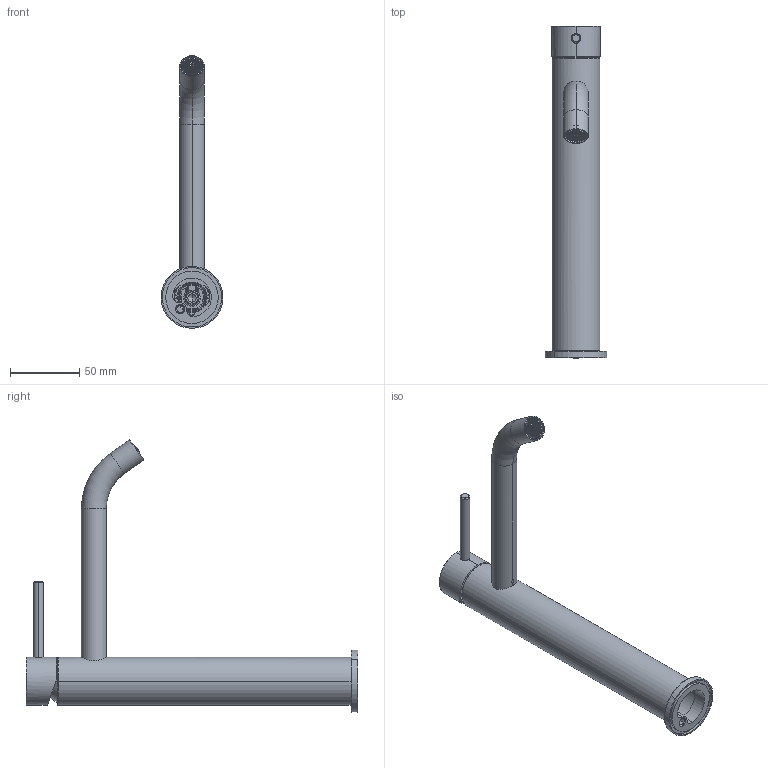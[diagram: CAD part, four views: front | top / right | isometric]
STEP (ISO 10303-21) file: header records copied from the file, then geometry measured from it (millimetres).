
FILE_DESCRIPTION((''),'2;1');
FILE_NAME('F3031LXS_FILE_3D','2016-01-26T',('ivanv'),(''),'CREO PARAMETRIC BY PTC INC, 2015290','CREO PARAMETRIC BY PTC INC, 2015290','');
FILE_SCHEMA(('CONFIG_CONTROL_DESIGN'));
Length unit declared in the file: millimetre
Products named in the file (1): F3031LXS_FILE_3D
Bounding box: 44.63 x 240 x 196.92 mm (x, y, z)
Volume: 88126.4 mm3; surface area: 78613.6 mm2
Topology: 2 solids, 2 shells, 3032 faces, 8816 edges, 5856 vertices
Faces by surface type: plane 1994, torus 455, cylinder 318, bspline 180, cone 71, sphere 14
Entity records: 127685 total; most frequent: CARTESIAN_POINT 53051, ORIENTED_EDGE 17612, DIRECTION 12593, EDGE_CURVE 8806, VERTEX_POINT 5856, AXIS2_PLACEMENT_3D 4496, VECTOR 3601, LINE 3601
